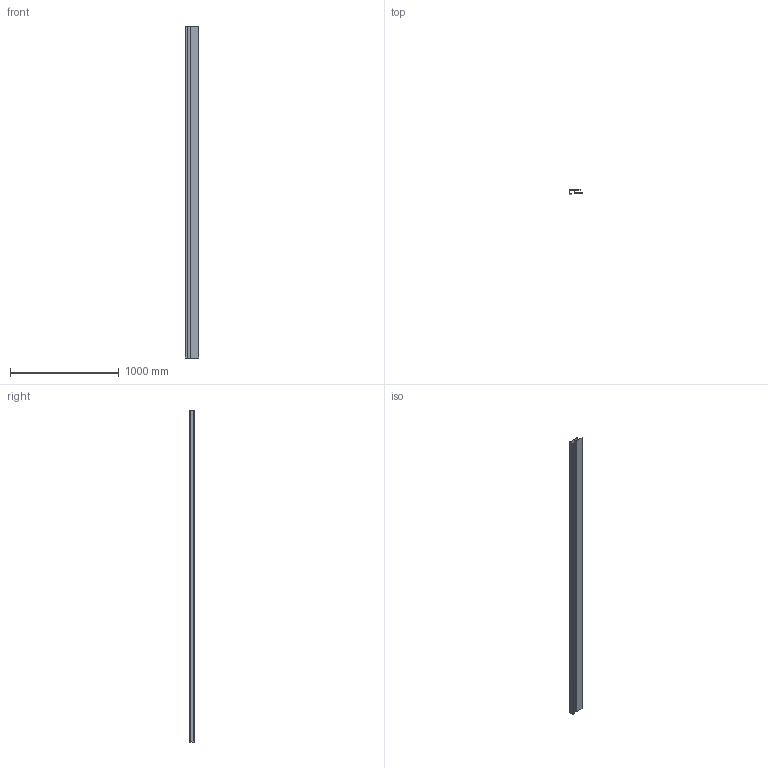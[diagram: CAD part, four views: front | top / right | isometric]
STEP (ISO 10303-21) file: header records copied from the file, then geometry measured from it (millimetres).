
FILE_DESCRIPTION (( 'STEP AP203' ), '1' );
FILE_NAME ('M32A.STEP', '2018-06-20T11:08:03', ( 'Michael Moliner' ), ( '' ), 'SwSTEP 2.0', 'SolidWorks 2018', '' );
FILE_SCHEMA (( 'CONFIG_CONTROL_DESIGN' ));
Length unit declared in the file: inch
Products named in the file (2): M32A
Bounding box: 127 x 41.27 x 3048 mm (x, y, z)
Volume: 495701.4 mm3; surface area: 1955002.5 mm2
Topology: 1 solids, 1 shells, 26 faces, 72 edges, 48 vertices
Faces by surface type: plane 16, cylinder 10
Entity records: 993 total; most frequent: DIRECTION 148, CARTESIAN_POINT 148, ORIENTED_EDGE 144, EDGE_CURVE 72, LINE 52, VECTOR 52, AXIS2_PLACEMENT_3D 48, VERTEX_POINT 48
